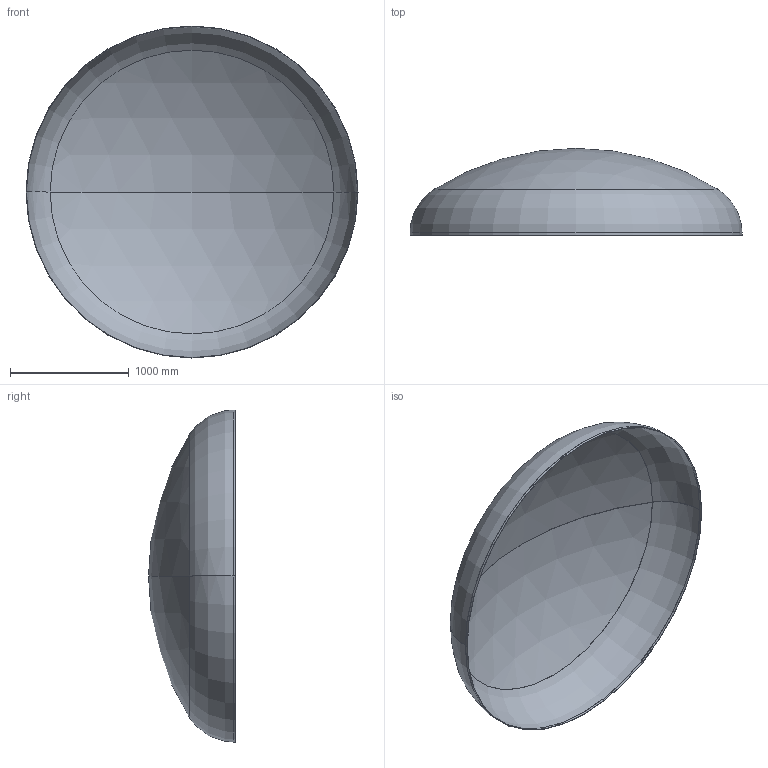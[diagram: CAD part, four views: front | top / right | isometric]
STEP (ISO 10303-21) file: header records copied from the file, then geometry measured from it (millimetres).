
FILE_DESCRIPTION (( 'STEP AP203' ), '1' );
FILE_NAME ('DIN 28013 Korbbogenform_-_Boden DIN 28013 - 2800 x 20 - I - s=3.step', '2016-07-01T16:37:21', ( '' ), ( '' ), 'SwSTEP 2.0', 'SolidWorks 2013', '' );
FILE_SCHEMA (( 'CONFIG_CONTROL_DESIGN' ));
Length unit declared in the file: millimetre
Products named in the file (1): DIN 28013 Korbbogenform_-_Boden DIN 28013 - 2800 x 20 - I - s=3
Bounding box: 2800 x 732.96 x 2800 mm (x, y, z)
Volume: 26064374.6 mm3; surface area: 17402622.5 mm2
Topology: 1 solids, 1 shells, 13 faces, 24 edges, 14 vertices
Faces by surface type: torus 4, cylinder 4, sphere 4, plane 1
Entity records: 407 total; most frequent: DIRECTION 72, CARTESIAN_POINT 52, ORIENTED_EDGE 48, AXIS2_PLACEMENT_3D 34, EDGE_CURVE 24, CIRCLE 20, VERTEX_POINT 14, EDGE_LOOP 14
